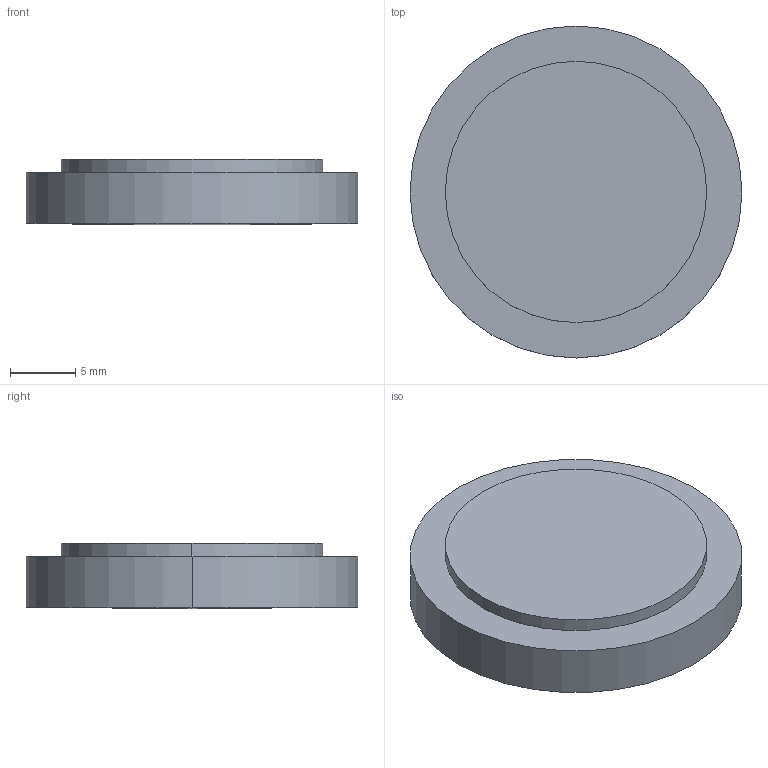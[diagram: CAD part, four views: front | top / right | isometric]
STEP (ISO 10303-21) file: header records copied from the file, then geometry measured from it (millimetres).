
FILE_DESCRIPTION(('STEP AP214'),'1');
FILE_NAME('LLZ-25610.STEP','2020-03-09T17:42:34',(' '),(' '),'Spatial InterOp 3D',' ',' ');
FILE_SCHEMA(('AUTOMOTIVE_DESIGN { 1 0 10303 214 1 1 1 1 }'));
Length unit declared in the file: millimetre
Products named in the file (1): 1
Bounding box: 25.4 x 25.4 x 5 mm (x, y, z)
Volume: 2316.9 mm3; surface area: 2016.2 mm2
Topology: 2 solids, 2 shells, 9 faces, 16 edges, 9 vertices
Faces by surface type: cylinder 4, plane 3, sphere 2
Entity records: 229 total; most frequent: DIRECTION 46, CARTESIAN_POINT 34, ORIENTED_EDGE 28, AXIS2_PLACEMENT_3D 21, EDGE_CURVE 14, CIRCLE 10, ADVANCED_FACE 9, FACE_OUTER_BOUND 9
